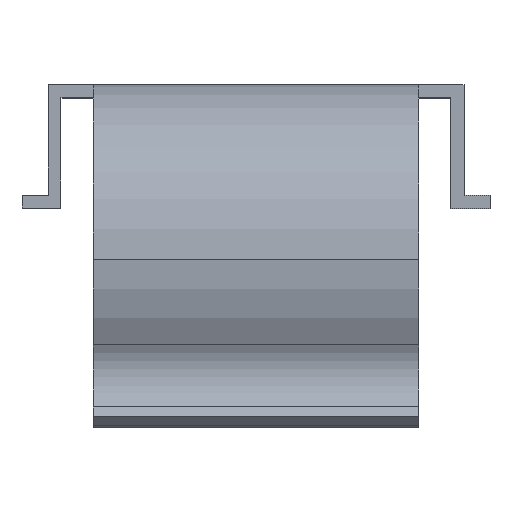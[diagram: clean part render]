
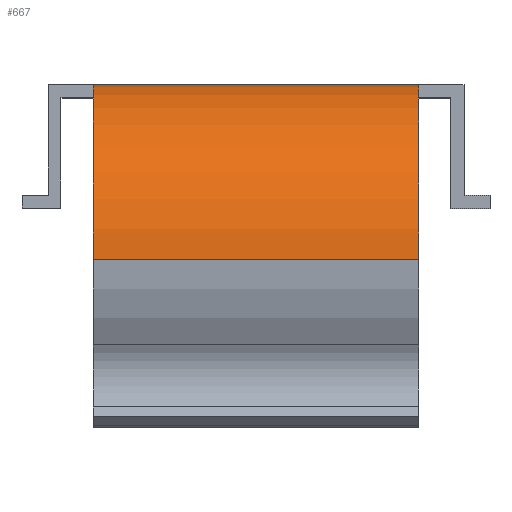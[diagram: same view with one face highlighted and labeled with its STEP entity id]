
A CAD part, top view. The second image highlights one B-rep face of the part: STEP entity #667.
In plain terms, the highlighted cylindrical face has radius 13.5 mm (diameter 27 mm), a partial arc.
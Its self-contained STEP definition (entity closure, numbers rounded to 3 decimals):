
#76 = ORIENTED_EDGE ( 'NONE', *, *, #854, .T. ) ;
#83 = DIRECTION ( 'NONE',  ( 0., 0., -1. ) ) ;
#95 = DIRECTION ( 'NONE',  ( -1., 0., 0. ) ) ;
#96 = DIRECTION ( 'NONE',  ( -1., 0., 0. ) ) ;
#299 = ORIENTED_EDGE ( 'NONE', *, *, #865, .T. ) ;
#302 = CARTESIAN_POINT ( 'NONE',  ( -12.5, 0., 13.5 ) ) ;
#354 = VERTEX_POINT ( 'NONE', #302 ) ;
#405 = AXIS2_PLACEMENT_3D ( 'NONE', #620, #96, #994 ) ;
#443 = DIRECTION ( 'NONE',  ( 0., 0., 1. ) ) ;
#462 = CYLINDRICAL_SURFACE ( 'NONE', #998, 13.5 ) ;
#523 = CARTESIAN_POINT ( 'NONE',  ( -12.5, 13.5, 0. ) ) ;
#570 = CIRCLE ( 'NONE', #405, 13.5 ) ;
#620 = CARTESIAN_POINT ( 'NONE',  ( -12.5, 0., 0. ) ) ;
#628 = CARTESIAN_POINT ( 'NONE',  ( 12.5, 0., 13.5 ) ) ;
#634 = FACE_OUTER_BOUND ( 'NONE', #657, .T. ) ;
#646 = CARTESIAN_POINT ( 'NONE',  ( 12.5, 13.5, 0. ) ) ;
#657 = EDGE_LOOP ( 'NONE', ( #943, #299, #76, #1018 ) ) ;
#667 = ADVANCED_FACE ( 'NONE', ( #634 ), #462, .T. ) ;
#757 = VERTEX_POINT ( 'NONE', #628 ) ;
#758 = CARTESIAN_POINT ( 'NONE',  ( 12.5, 0., 0. ) ) ;
#766 = AXIS2_PLACEMENT_3D ( 'NONE', #758, #971, #83 ) ;
#780 = CARTESIAN_POINT ( 'NONE',  ( 12.5, 13.5, 0. ) ) ;
#854 = EDGE_CURVE ( 'NONE', #1046, #1074, #1165, .T. ) ;
#865 = EDGE_CURVE ( 'NONE', #757, #1046, #952, .T. ) ;
#943 = ORIENTED_EDGE ( 'NONE', *, *, #1201, .F. ) ;
#944 = CARTESIAN_POINT ( 'NONE',  ( 12.5, 0., 0. ) ) ;
#952 = CIRCLE ( 'NONE', #766, 13.5 ) ;
#971 = DIRECTION ( 'NONE',  ( -1., 0., 0. ) ) ;
#994 = DIRECTION ( 'NONE',  ( 0., 0., -1. ) ) ;
#998 = AXIS2_PLACEMENT_3D ( 'NONE', #944, #1235, #443 ) ;
#1008 = DIRECTION ( 'NONE',  ( -1., 0., 0. ) ) ;
#1018 = ORIENTED_EDGE ( 'NONE', *, *, #1180, .F. ) ;
#1027 = VECTOR ( 'NONE', #1008, 1000. ) ;
#1046 = VERTEX_POINT ( 'NONE', #646 ) ;
#1074 = VERTEX_POINT ( 'NONE', #523 ) ;
#1090 = LINE ( 'NONE', #1212, #1027 ) ;
#1165 = LINE ( 'NONE', #780, #1176 ) ;
#1176 = VECTOR ( 'NONE', #95, 1000. ) ;
#1180 = EDGE_CURVE ( 'NONE', #354, #1074, #570, .T. ) ;
#1201 = EDGE_CURVE ( 'NONE', #757, #354, #1090, .T. ) ;
#1212 = CARTESIAN_POINT ( 'NONE',  ( 12.5, 0., 13.5 ) ) ;
#1235 = DIRECTION ( 'NONE',  ( -1., 0., 0. ) ) ;
